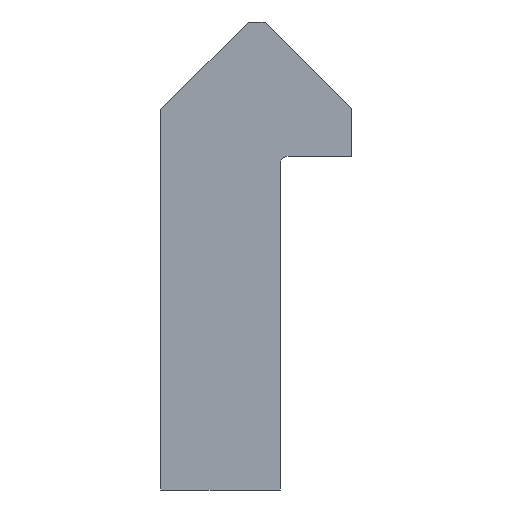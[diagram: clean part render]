
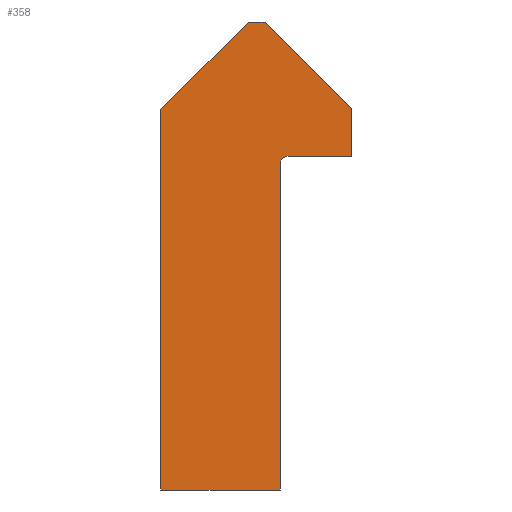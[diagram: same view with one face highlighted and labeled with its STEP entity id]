
A CAD part, left-side view. The second image highlights one B-rep face of the part: STEP entity #358.
In plain terms, the highlighted planar face has unit normal (-1, 0, 0).
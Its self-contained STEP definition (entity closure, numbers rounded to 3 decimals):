
#59=CARTESIAN_POINT('',(0.0,-6.35,11.12));
#60=VERTEX_POINT('',#59);
#67=CARTESIAN_POINT('',(0.0,-4.244,11.12));
#68=VERTEX_POINT('',#67);
#69=CARTESIAN_POINT('',(0.0,-4.244,11.12));
#70=DIRECTION('',(0.0,-1.0,0.0));
#71=VECTOR('',#70,2.106);
#72=LINE('',#69,#71);
#73=EDGE_CURVE('',#68,#60,#72,.T.);
#97=CARTESIAN_POINT('',(0.0,-6.35,12.72));
#98=VERTEX_POINT('',#97);
#105=CARTESIAN_POINT('',(0.0,-6.35,11.12));
#106=DIRECTION('',(0.0,0.0,1.0));
#107=VECTOR('',#106,1.6);
#108=LINE('',#105,#107);
#109=EDGE_CURVE('',#60,#98,#108,.T.);
#128=CARTESIAN_POINT('',(0.0,-3.483,15.587));
#129=VERTEX_POINT('',#128);
#136=CARTESIAN_POINT('',(0.0,-6.35,12.72));
#137=DIRECTION('',(0.0,0.707,0.707));
#138=VECTOR('',#137,4.055);
#139=LINE('',#136,#138);
#140=EDGE_CURVE('',#98,#129,#139,.T.);
#159=CARTESIAN_POINT('',(0.0,-2.917,15.587));
#160=VERTEX_POINT('',#159);
#167=CARTESIAN_POINT('',(0.0,-3.483,15.587));
#168=DIRECTION('',(0.0,1.0,0.0));
#169=VECTOR('',#168,0.566);
#170=LINE('',#167,#169);
#171=EDGE_CURVE('',#129,#160,#170,.T.);
#190=CARTESIAN_POINT('',(0.0,0.0,12.67));
#191=VERTEX_POINT('',#190);
#198=CARTESIAN_POINT('',(0.0,-2.917,15.587));
#199=DIRECTION('',(0.0,0.707,-0.707));
#200=VECTOR('',#199,4.125);
#201=LINE('',#198,#200);
#202=EDGE_CURVE('',#160,#191,#201,.T.);
#221=CARTESIAN_POINT('',(0.0,0.0,0.0));
#222=VERTEX_POINT('',#221);
#229=CARTESIAN_POINT('',(0.0,0.0,12.67));
#230=DIRECTION('',(0.0,0.0,-1.0));
#231=VECTOR('',#230,12.67);
#232=LINE('',#229,#231);
#233=EDGE_CURVE('',#191,#222,#232,.T.);
#252=CARTESIAN_POINT('',(0.0,-3.99,0.0));
#253=VERTEX_POINT('',#252);
#260=CARTESIAN_POINT('',(0.0,0.0,0.0));
#261=DIRECTION('',(0.0,-1.0,0.0));
#262=VECTOR('',#261,3.99);
#263=LINE('',#260,#262);
#264=EDGE_CURVE('',#222,#253,#263,.T.);
#283=CARTESIAN_POINT('',(0.0,-3.99,10.866));
#284=VERTEX_POINT('',#283);
#291=CARTESIAN_POINT('',(0.0,-3.99,0.0));
#292=DIRECTION('',(0.0,0.0,1.0));
#293=VECTOR('',#292,10.866);
#294=LINE('',#291,#293);
#295=EDGE_CURVE('',#253,#284,#294,.T.);
#314=CARTESIAN_POINT('',(0.0,-4.244,10.866));
#315=DIRECTION('',(1.0,0.0,0.0));
#316=DIRECTION('',(0.0,1.0,0.0));
#317=AXIS2_PLACEMENT_3D('',#314,#315,#316);
#318=CIRCLE('',#317,0.254);
#319=EDGE_CURVE('',#284,#68,#318,.T.);
#342=CARTESIAN_POINT('',(0.0,-2.527,7.695));
#343=DIRECTION('',(1.0,0.0,0.0));
#344=DIRECTION('',(0.0,0.0,-1.0));
#345=AXIS2_PLACEMENT_3D('',#342,#343,#344);
#346=PLANE('',#345);
#347=ORIENTED_EDGE('',*,*,#319,.T.);
#348=ORIENTED_EDGE('',*,*,#73,.T.);
#349=ORIENTED_EDGE('',*,*,#109,.T.);
#350=ORIENTED_EDGE('',*,*,#140,.T.);
#351=ORIENTED_EDGE('',*,*,#171,.T.);
#352=ORIENTED_EDGE('',*,*,#202,.T.);
#353=ORIENTED_EDGE('',*,*,#233,.T.);
#354=ORIENTED_EDGE('',*,*,#264,.T.);
#355=ORIENTED_EDGE('',*,*,#295,.T.);
#356=EDGE_LOOP('',(#347,#348,#349,#350,#351,#352,#353,#354,#355));
#357=FACE_OUTER_BOUND('',#356,.T.);
#358=ADVANCED_FACE('',(#357),#346,.F.);
